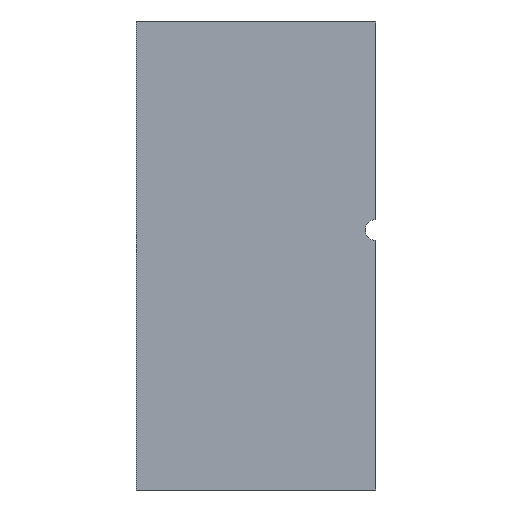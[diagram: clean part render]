
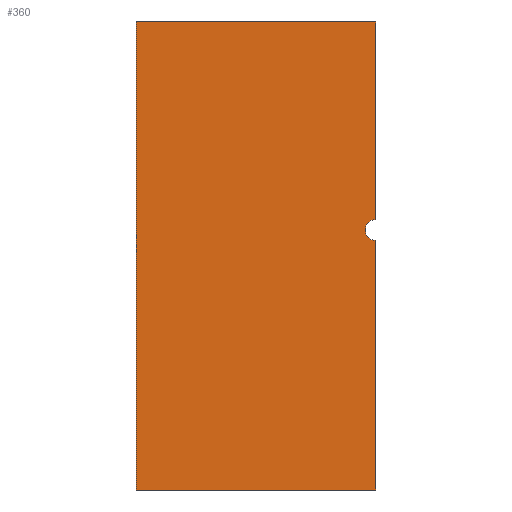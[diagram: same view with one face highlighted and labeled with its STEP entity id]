
A CAD part, left-side view. The second image highlights one B-rep face of the part: STEP entity #360.
In plain terms, the highlighted planar face has unit normal (-1, 0, 0).
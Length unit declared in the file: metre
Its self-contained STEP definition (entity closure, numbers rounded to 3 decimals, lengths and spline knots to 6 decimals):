
#23=CIRCLE('',#394,0.001);
#47=ORIENTED_EDGE('',*,*,#143,.F.);
#48=ORIENTED_EDGE('',*,*,#144,.T.);
#49=ORIENTED_EDGE('',*,*,#145,.T.);
#50=ORIENTED_EDGE('',*,*,#146,.F.);
#51=ORIENTED_EDGE('',*,*,#147,.F.);
#52=ORIENTED_EDGE('',*,*,#148,.F.);
#143=EDGE_CURVE('',#191,#192,#227,.T.);
#144=EDGE_CURVE('',#191,#193,#228,.T.);
#145=EDGE_CURVE('',#193,#194,#229,.T.);
#146=EDGE_CURVE('',#195,#194,#230,.T.);
#147=EDGE_CURVE('',#196,#195,#23,.T.);
#148=EDGE_CURVE('',#192,#196,#231,.T.);
#191=VERTEX_POINT('',#554);
#192=VERTEX_POINT('',#555);
#193=VERTEX_POINT('',#557);
#194=VERTEX_POINT('',#559);
#195=VERTEX_POINT('',#561);
#196=VERTEX_POINT('',#563);
#227=LINE('',#553,#251);
#228=LINE('',#556,#252);
#229=LINE('',#558,#253);
#230=LINE('',#560,#254);
#231=LINE('',#564,#255);
#251=VECTOR('',#441,1.);
#252=VECTOR('',#442,1.);
#253=VECTOR('',#443,1.);
#254=VECTOR('',#444,1.);
#255=VECTOR('',#447,1.);
#275=EDGE_LOOP('',(#47,#48,#49,#50,#51,#52));
#313=FACE_BOUND('',#275,.T.);
#351=PLANE('',#393);
#360=ADVANCED_FACE('',(#313),#351,.F.);
#393=AXIS2_PLACEMENT_3D('',#552,#439,#440);
#394=AXIS2_PLACEMENT_3D('',#562,#445,#446);
#439=DIRECTION('',(1.,0.,0.));
#440=DIRECTION('',(0.,0.,-1.));
#441=DIRECTION('',(0.,-1.,0.));
#442=DIRECTION('',(0.,0.,-1.));
#443=DIRECTION('',(0.,-1.,0.));
#444=DIRECTION('',(0.,0.,-1.));
#445=DIRECTION('',(-1.,0.,0.));
#446=DIRECTION('',(0.,0.,-1.));
#447=DIRECTION('',(0.,0.,-1.));
#552=CARTESIAN_POINT('',(-0.0275,0.023,0.0025));
#553=CARTESIAN_POINT('',(-0.0275,0.0115,0.02));
#554=CARTESIAN_POINT('',(-0.0275,0.023,0.02));
#555=CARTESIAN_POINT('',(-0.0275,0.,0.02));
#556=CARTESIAN_POINT('',(-0.0275,0.023,0.0025));
#557=CARTESIAN_POINT('',(-0.0275,0.023,-0.025));
#558=CARTESIAN_POINT('',(-0.0275,0.023,-0.025));
#559=CARTESIAN_POINT('',(-0.0275,0.,-0.025));
#560=CARTESIAN_POINT('',(-0.0275,0.,0.0025));
#561=CARTESIAN_POINT('',(-0.0275,0.,-0.001));
#562=CARTESIAN_POINT('',(-0.0275,0.,0.));
#563=CARTESIAN_POINT('',(-0.0275,0.,0.001));
#564=CARTESIAN_POINT('',(-0.0275,0.,0.0025));
